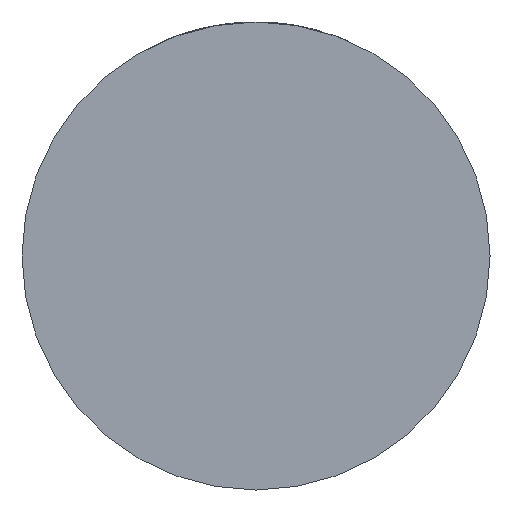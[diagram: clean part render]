
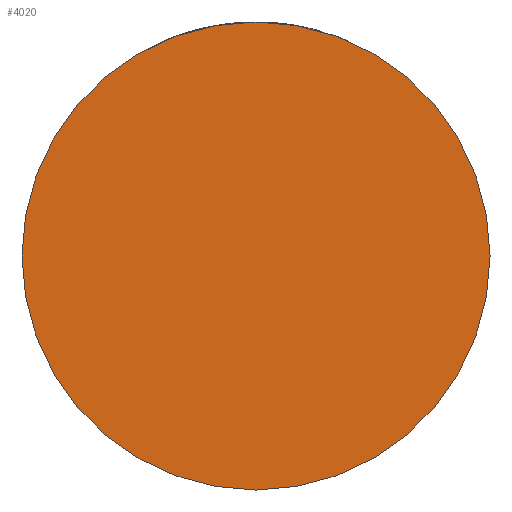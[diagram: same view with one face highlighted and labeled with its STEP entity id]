
A CAD part, front view. The second image highlights one B-rep face of the part: STEP entity #4020.
In plain terms, the highlighted planar face has unit normal (0, -1, 0).
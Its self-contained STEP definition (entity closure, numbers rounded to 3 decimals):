
#40 = EDGE_CURVE ( 'NONE', #3124, #3720, #1732, .T. ) ;
#352 = AXIS2_PLACEMENT_3D ( 'NONE', #1966, #1988, #3351 ) ;
#545 = ORIENTED_EDGE ( 'NONE', *, *, #1146, .T. ) ;
#548 = FACE_OUTER_BOUND ( 'NONE', #1567, .T. ) ;
#658 = AXIS2_PLACEMENT_3D ( 'NONE', #2286, #3695, #1995 ) ;
#1146 = EDGE_CURVE ( 'NONE', #3720, #3124, #2363, .T. ) ;
#1173 = DIRECTION ( 'NONE',  ( 1., 0., 0. ) ) ;
#1567 = EDGE_LOOP ( 'NONE', ( #545, #3828 ) ) ;
#1732 = CIRCLE ( 'NONE', #3871, 32. ) ;
#1775 = CARTESIAN_POINT ( 'NONE',  ( 32., -25., 0. ) ) ;
#1966 = CARTESIAN_POINT ( 'NONE',  ( 0., -25., 0. ) ) ;
#1988 = DIRECTION ( 'NONE',  ( 0., -1., 0. ) ) ;
#1995 = DIRECTION ( 'NONE',  ( 1., 0., 0. ) ) ;
#2286 = CARTESIAN_POINT ( 'NONE',  ( 0., -25., 0. ) ) ;
#2363 = CIRCLE ( 'NONE', #352, 32. ) ;
#2849 = DIRECTION ( 'NONE',  ( 0., -1., 0. ) ) ;
#2999 = PLANE ( 'NONE',  #658 ) ;
#3124 = VERTEX_POINT ( 'NONE', #1775 ) ;
#3351 = DIRECTION ( 'NONE',  ( 1., 0., 0. ) ) ;
#3428 = CARTESIAN_POINT ( 'NONE',  ( -32., -25., 0. ) ) ;
#3695 = DIRECTION ( 'NONE',  ( 0., -1., 0. ) ) ;
#3720 = VERTEX_POINT ( 'NONE', #3428 ) ;
#3828 = ORIENTED_EDGE ( 'NONE', *, *, #40, .T. ) ;
#3838 = CARTESIAN_POINT ( 'NONE',  ( 0., -25., 0. ) ) ;
#3871 = AXIS2_PLACEMENT_3D ( 'NONE', #3838, #2849, #1173 ) ;
#4020 = ADVANCED_FACE ( 'NONE', ( #548 ), #2999, .T. ) ;
